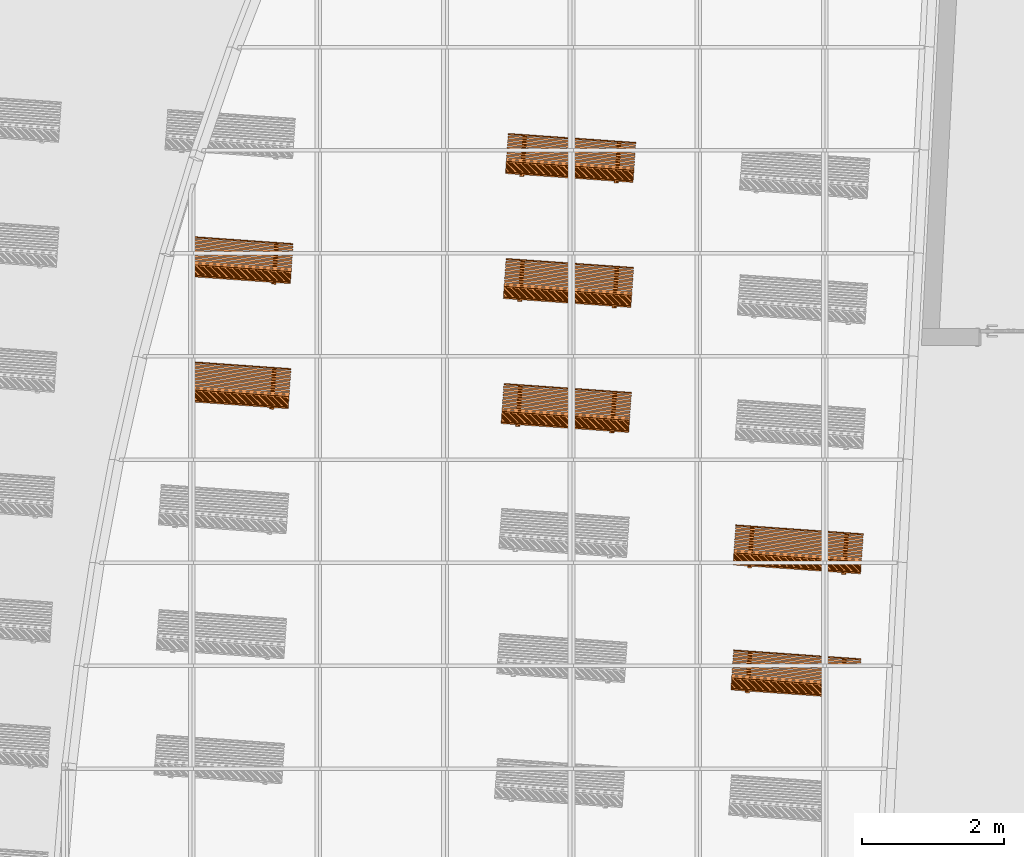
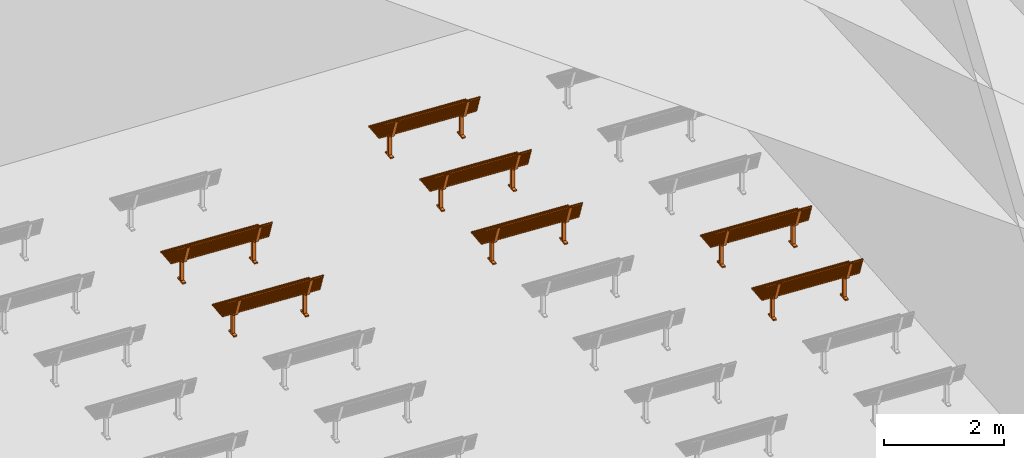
# One storey, part 79 of 82: 7 proxies.
"""IFC2X3 building model written with IfcOpenShell, lengths in millimetres."""

from ifc_helpers import new_model, entity, si_unit, converted_unit, derived_unit, direction, frame, frame_2d, origin, origin_2d_with_axis, place, context, subcontext, project, spatial, polyline, circle_curve, parameter, trimmed, segment, composite_curve, rectangle, outline, extrude, source, transform, mapped, material, material_list, element, save


model = new_model("IFC2X3")

# Units and contexts
model_context = context("Model", 3, precision=0.01, world=origin(), true_north=direction((6.12303176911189e-17, 1.0)))
body_context = subcontext(model_context, "Body", "Model", "MODEL_VIEW")
ifc_project = project(units=[si_unit("LENGTHUNIT", "METRE", prefix="MILLI"), si_unit("AREAUNIT", "SQUARE_METRE"), si_unit("VOLUMEUNIT", "CUBIC_METRE"), converted_unit("PLANEANGLEUNIT", "DEGREE", entity("IfcRatioMeasure", 0.0174532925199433), si_unit("PLANEANGLEUNIT", "RADIAN"), dimensions=[0, 0, 0, 0, 0, 0, 0]), si_unit("MASSUNIT", "GRAM", prefix="KILO"), derived_unit("MASSDENSITYUNIT", [(si_unit("MASSUNIT", "GRAM", prefix="KILO"), 1), (si_unit("LENGTHUNIT", "METRE"), -3)]), si_unit("TIMEUNIT", "SECOND"), si_unit("FREQUENCYUNIT", "HERTZ"), si_unit("THERMODYNAMICTEMPERATUREUNIT", "DEGREE_CELSIUS"), derived_unit("THERMALTRANSMITTANCEUNIT", [(si_unit("MASSUNIT", "GRAM", prefix="KILO"), 1), (si_unit("THERMODYNAMICTEMPERATUREUNIT", "KELVIN"), -1), (si_unit("TIMEUNIT", "SECOND"), -3)]), derived_unit("VOLUMETRICFLOWRATEUNIT", [(si_unit("LENGTHUNIT", "METRE"), 3), (si_unit("TIMEUNIT", "SECOND"), -1)]), si_unit("ELECTRICCURRENTUNIT", "AMPERE"), si_unit("ELECTRICVOLTAGEUNIT", "VOLT"), si_unit("POWERUNIT", "WATT"), si_unit("FORCEUNIT", "NEWTON", prefix="KILO"), si_unit("ILLUMINANCEUNIT", "LUX"), si_unit("LUMINOUSFLUXUNIT", "LUMEN"), si_unit("LUMINOUSINTENSITYUNIT", "CANDELA"), derived_unit("USERDEFINED", [(si_unit("MASSUNIT", "GRAM", prefix="KILO"), -1), (si_unit("LENGTHUNIT", "METRE"), -2), (si_unit("TIMEUNIT", "SECOND"), 3), (si_unit("LUMINOUSFLUXUNIT", "LUMEN"), 1)]), derived_unit("LINEARVELOCITYUNIT", [(si_unit("LENGTHUNIT", "METRE"), 1), (si_unit("TIMEUNIT", "SECOND"), -1)]), si_unit("PRESSUREUNIT", "PASCAL"), derived_unit("USERDEFINED", [(si_unit("LENGTHUNIT", "METRE"), -2), (si_unit("MASSUNIT", "GRAM", prefix="KILO"), 1), (si_unit("TIMEUNIT", "SECOND"), -2)])], contexts=[model_context])

# Site, building, storey
site_placement = place(None, origin())
site = spatial("IfcSite", under=ifc_project, at=site_placement, Name="表面", CompositionType="ELEMENT")
building_placement = place(site_placement, origin())
building = spatial("IfcBuilding", under=site, at=building_placement, CompositionType="ELEMENT")
storey_placement = place(building_placement, origin())
storey = spatial("IfcBuildingStorey", under=building, at=storey_placement, Name="1F", CompositionType="ELEMENT", Elevation=0.0)

# Proxies
ifc_material_1 = material(Name="木质 - 柚木")
ifc_material_2 = material(Name="金属 - 油漆面层 - 深灰色，粗面")
ifc_material_list_1 = material_list([ifc_material_1, ifc_material_2])
shared_shape_1 = source(origin(), body_context, "Body", "SweptSolid", [
    extrude(outline(composite_curve([segment(polyline([(0.797293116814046, -5.21607142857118), (12.0635827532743, -5.21607142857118)]), True, "CONTINUOUS"), segment(polyline([(12.0635827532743, -5.21607142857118), (12.0635827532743, 20.1839285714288)]), True, "CONTINUOUS"), segment(polyline([(12.0635827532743, 20.1839285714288), (0.951082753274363, 20.1839285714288)]), True, "CONTINUOUS"), segment(trimmed(circle_curve(frame_2d((0.951082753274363, 5.89642857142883), x_axis=(1.0, 0.0)), 14.2875), [parameter(89.9999999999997)], [parameter(179.999999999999)], True, "PARAMETER"), True, "CONTINUOUS"), segment(polyline([(-13.3364172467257, 5.89642857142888), (-13.3364172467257, -17.9160714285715)]), True, "CONTINUOUS"), segment(polyline([(-13.3364172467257, -17.9160714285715), (0.797293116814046, -17.9160714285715)]), True, "CONTINUOUS"), segment(polyline([(0.797293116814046, -17.9160714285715), (0.797293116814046, -5.21607142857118)]), True, "CONTINUOUS")], self_intersect=False)), frame((-900.0, -305.597293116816, 462.416071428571), z_axis=(1.0, 0.0, 0.0), x_axis=(0.0, 1.0, 0.0)), (0.0, 0.0, 1.0), 1800.0),
    extrude(outline(composite_curve([segment(polyline([(-12.6999999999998, -17.78), (0.0, -17.78)]), True, "CONTINUOUS"), segment(trimmed(circle_curve(frame_2d((0.0, -5.07999999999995), x_axis=(-0.939692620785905, -0.342020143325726)), 12.7), [parameter(69.9999999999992)], [parameter(160.0)], True, "PARAMETER"), True, "CONTINUOUS"), segment(polyline([(12.7, -5.07999999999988), (12.6999999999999, 20.3200000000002)]), True, "CONTINUOUS"), segment(polyline([(12.6999999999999, 20.3200000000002), (-12.7000000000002, 20.3200000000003)]), True, "CONTINUOUS"), segment(polyline([(-12.7000000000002, 20.3200000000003), (-12.6999999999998, -17.78)]), True, "CONTINUOUS")], self_intersect=False)), frame((-900.0, 231.374580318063, 850.885044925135), z_axis=(1.0, 0.0, 0.0), x_axis=(0.0, -0.939692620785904, 0.342020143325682)), (0.0, 0.0, 1.0), 1800.0),
    extrude(rectangle(XDim=1800.0, YDim=25.4, at=frame_2d((0.0, 1.68753899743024e-14), x_axis=(1.0, 0.0))), frame((0.0, -268.133710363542, 457.2), z_axis=(0.0, 0.0, 1.0), x_axis=(-1.0, 0.0, 0.0)), (0.0, 0.0, 1.0), 25.4),
    extrude(rectangle(XDim=1800.0, YDim=25.4, at=frame_2d((0.0, 1.68753899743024e-14), x_axis=(1.0, 0.0))), frame((0.0, -230.033710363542, 457.2), z_axis=(0.0, 0.0, 1.0), x_axis=(-1.0, 0.0, 0.0)), (0.0, 0.0, 1.0), 25.4),
    extrude(rectangle(XDim=1800.0, YDim=25.4, at=frame_2d((0.0, 1.68753899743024e-14), x_axis=(1.0, 0.0))), frame((0.0, -191.933710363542, 457.2), z_axis=(0.0, 0.0, 1.0), x_axis=(-1.0, 0.0, 0.0)), (0.0, 0.0, 1.0), 25.4),
    extrude(rectangle(XDim=1800.0, YDim=25.4, at=frame_2d((0.0, 1.68753899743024e-14), x_axis=(1.0, 0.0))), frame((0.0, -153.833710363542, 457.2), z_axis=(0.0, 0.0, 1.0), x_axis=(-1.0, 0.0, 0.0)), (0.0, 0.0, 1.0), 25.4),
    extrude(rectangle(XDim=1800.0, YDim=25.4, at=frame_2d((0.0, 1.68753899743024e-14), x_axis=(1.0, 0.0))), frame((0.0, -115.733710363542, 457.2), z_axis=(0.0, 0.0, 1.0), x_axis=(-1.0, 0.0, 0.0)), (0.0, 0.0, 1.0), 25.4),
    extrude(rectangle(XDim=1800.0, YDim=25.4, at=origin_2d_with_axis()), frame((0.0, -77.6337103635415, 457.2), z_axis=(0.0, 0.0, 1.0), x_axis=(-1.0, 0.0, 0.0)), (0.0, 0.0, 1.0), 25.4),
    extrude(rectangle(XDim=1800.0, YDim=25.4, at=origin_2d_with_axis()), frame((0.0, -39.5337103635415, 457.2), z_axis=(0.0, 0.0, 1.0), x_axis=(-1.0, 0.0, 0.0)), (0.0, 0.0, 1.0), 25.4),
    extrude(rectangle(XDim=1800.0, YDim=25.4, at=origin_2d_with_axis()), frame((0.0, -1.43371036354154, 457.2), z_axis=(0.0, 0.0, 1.0), x_axis=(-1.0, 0.0, 0.0)), (0.0, 0.0, 1.0), 25.4),
    extrude(rectangle(XDim=1800.0, YDim=25.4, at=origin_2d_with_axis()), frame((0.0, 36.6662896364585, 457.2), z_axis=(0.0, 0.0, 1.0), x_axis=(-1.0, 0.0, 0.0)), (0.0, 0.0, 1.0), 25.4),
    extrude(rectangle(XDim=25.4, YDim=25.4, at=frame_2d((3.10862446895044e-14, -1.33226762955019e-13), x_axis=(0.0, 1.0))), frame((-900.0, 137.551614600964, 593.108565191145), z_axis=(1.0, 0.0, 0.0), x_axis=(0.0, -0.939692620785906, 0.342020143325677)), (0.0, 0.0, 1.0), 1800.0),
    extrude(rectangle(XDim=25.4, YDim=25.4000000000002, at=frame_2d((-8.61533067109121e-14, 4.08562073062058e-14), x_axis=(0.0, 1.0))), frame((-900.0, 150.582582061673, 628.910854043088), z_axis=(1.0, 0.0, 0.0), x_axis=(0.0, -0.939692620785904, 0.342020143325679)), (0.0, 0.0, 1.0), 1800.0),
    extrude(rectangle(XDim=25.4000000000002, YDim=25.4, at=frame_2d((-3.19744231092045e-14, -1.15463194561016e-14), x_axis=(0.0, 1.0))), frame((-900.0, 111.489679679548, 521.503987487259), z_axis=(1.0, 0.0, 0.0), x_axis=(0.0, -0.939692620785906, 0.342020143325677)), (0.0, 0.0, 1.0), 1800.0),
    extrude(rectangle(XDim=25.4, YDim=25.3999999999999, at=frame_2d((0.0, 0.0), x_axis=(0.0, 1.0))), frame((-900.0, 124.520647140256, 557.306276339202), z_axis=(1.0, 0.0, 0.0), x_axis=(0.0, -0.939692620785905, 0.342020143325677)), (0.0, 0.0, 1.0), 1800.0),
    extrude(rectangle(XDim=25.3999999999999, YDim=25.4, at=frame_2d((-3.10862446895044e-14, -1.06581410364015e-14), x_axis=(0.0, 1.0))), frame((-900.0, 189.675484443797, 736.317720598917), z_axis=(1.0, 0.0, 0.0), x_axis=(0.0, -0.939692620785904, 0.342020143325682)), (0.0, 0.0, 1.0), 1800.0),
    extrude(rectangle(XDim=25.3999999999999, YDim=25.4000000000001, at=frame_2d((-3.10862446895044e-14, -1.33226762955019e-14), x_axis=(0.0, 1.0))), frame((-900.0, 202.706451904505, 772.12000945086), z_axis=(1.0, 0.0, 0.0), x_axis=(0.0, -0.939692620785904, 0.34202014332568)), (0.0, 0.0, 1.0), 1800.0),
    extrude(rectangle(XDim=25.4, YDim=25.3999999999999, at=frame_2d((0.0, 0.0), x_axis=(0.0, 1.0))), frame((-900.0, 163.613549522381, 664.713142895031), z_axis=(1.0, 0.0, 0.0), x_axis=(0.0, -0.939692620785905, 0.342020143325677)), (0.0, 0.0, 1.0), 1800.0),
    extrude(rectangle(XDim=25.4, YDim=25.4, at=frame_2d((-7.99360577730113e-15, -7.63833440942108e-14), x_axis=(0.0, 1.0))), frame((-900.0, 176.644516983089, 700.515431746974), z_axis=(1.0, 0.0, 0.0), x_axis=(0.0, -0.939692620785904, 0.342020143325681)), (0.0, 0.0, 1.0), 1800.0),
    extrude(rectangle(XDim=25.4, YDim=25.3999999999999, at=frame_2d((3.19744231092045e-14, 1.06581410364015e-14), x_axis=(0.0, 1.0))), frame((-900.0, 215.737419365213, 807.922298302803), z_axis=(1.0, 0.0, 0.0), x_axis=(0.0, -0.939692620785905, 0.342020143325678)), (0.0, 0.0, 1.0), 1800.0),
    extrude(rectangle(XDim=25.4000000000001, YDim=25.3999999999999, at=frame_2d((-1.33226762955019e-14, -9.76996261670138e-15), x_axis=(0.0, 1.0))), frame((-900.0, 96.4732295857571, 493.845543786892), z_axis=(1.0, 0.0, 0.0), x_axis=(0.0, -0.81915204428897, 0.573576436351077)), (0.0, 0.0, 1.0), 1800.0),
    extrude(rectangle(XDim=25.4, YDim=25.4000000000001, at=frame_2d((4.44089209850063e-15, 1.68753899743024e-14), x_axis=(1.0, 0.0))), frame((-900.0, 68.061957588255, 472.784050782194), z_axis=(1.0, 0.0, 0.0), x_axis=(0.0, -0.258819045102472, 0.965925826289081)), (0.0, 0.0, 1.0), 1800.0),
    extrude(outline(composite_curve([segment(polyline([(344.97581690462, -133.451056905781), (370.37581690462, -133.451056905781)]), True, "CONTINUOUS"), segment(polyline([(370.37581690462, -133.451056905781), (370.37581690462, 69.7489430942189)]), True, "CONTINUOUS"), segment(polyline([(370.37581690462, 69.7489430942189), (344.97581690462, 69.7489430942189)]), True, "CONTINUOUS"), segment(polyline([(344.97581690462, 69.7489430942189), (344.97581690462, -6.45105690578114)]), True, "CONTINUOUS"), segment(polyline([(344.97581690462, -6.45105690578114), (-61.4241830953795, -6.45105690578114)]), True, "CONTINUOUS"), segment(polyline([(-61.4241830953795, -6.45105690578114), (-61.4241830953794, 25.2857644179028)]), True, "CONTINUOUS"), segment(trimmed(circle_curve(frame_2d((-150.324183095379, 25.2857644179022), x_axis=(0.0, 1.0)), 88.8999999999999), [parameter(270.0)], [parameter(340.0)], True, "PARAMETER"), True, "CONTINUOUS"), segment(polyline([(-119.918592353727, 108.824438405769), (-483.896145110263, 241.301433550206)]), True, "CONTINUOUS"), segment(polyline([(-483.896145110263, 241.301433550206), (-488.239800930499, 229.367337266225)]), True, "CONTINUOUS"), segment(trimmed(circle_curve(frame_2d((-476.305704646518, 225.023681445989), x_axis=(0.0, 1.0)), 12.7), [parameter(69.9999999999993)], [parameter(160.0)], True, "PARAMETER"), True, "CONTINUOUS"), segment(polyline([(-480.649360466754, 213.089585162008), (-128.6059039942, 84.9562458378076)]), True, "CONTINUOUS"), segment(trimmed(circle_curve(frame_2d((-150.32418309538, 25.2857644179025), x_axis=(0.0, 1.0)), 63.5), [parameter(270.0)], [parameter(340.0)], True, "PARAMETER"), False, "CONTINUOUS"), segment(polyline([(-86.8241830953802, 25.2857644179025), (-86.8241830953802, -336.651056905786)]), True, "CONTINUOUS"), segment(polyline([(-86.8241830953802, -336.651056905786), (-61.4241830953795, -336.651056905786)]), True, "CONTINUOUS"), segment(polyline([(-61.4241830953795, -336.651056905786), (-61.4241830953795, -57.2510569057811)]), True, "CONTINUOUS"), segment(polyline([(-61.4241830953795, -57.2510569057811), (344.97581690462, -57.2510569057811)]), True, "CONTINUOUS"), segment(polyline([(344.97581690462, -57.2510569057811), (344.97581690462, -133.451056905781)]), True, "CONTINUOUS")], self_intersect=False)), frame((633.973659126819, 31.8510569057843, 370.37581690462), z_axis=(1.0, 0.0, 0.0), x_axis=(0.0, 0.0, -1.0)), (0.0, 0.0, 1.0), 62.8263408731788),
    extrude(outline(composite_curve([segment(polyline([(344.97581690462, -133.451056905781), (370.37581690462, -133.451056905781)]), True, "CONTINUOUS"), segment(polyline([(370.37581690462, -133.451056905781), (370.37581690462, 69.7489430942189)]), True, "CONTINUOUS"), segment(polyline([(370.37581690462, 69.7489430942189), (344.97581690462, 69.7489430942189)]), True, "CONTINUOUS"), segment(polyline([(344.97581690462, 69.7489430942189), (344.97581690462, -6.45105690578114)]), True, "CONTINUOUS"), segment(polyline([(344.97581690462, -6.45105690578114), (-61.4241830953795, -6.45105690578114)]), True, "CONTINUOUS"), segment(polyline([(-61.4241830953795, -6.45105690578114), (-61.4241830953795, 25.2857644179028)]), True, "CONTINUOUS"), segment(trimmed(circle_curve(frame_2d((-150.32418309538, 25.2857644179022), x_axis=(0.0, 1.0)), 88.9), [parameter(270.0)], [parameter(340.0)], True, "PARAMETER"), True, "CONTINUOUS"), segment(polyline([(-119.918592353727, 108.824438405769), (-483.896145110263, 241.301433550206)]), True, "CONTINUOUS"), segment(polyline([(-483.896145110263, 241.301433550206), (-488.239800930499, 229.367337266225)]), True, "CONTINUOUS"), segment(trimmed(circle_curve(frame_2d((-476.305704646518, 225.023681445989), x_axis=(0.0, 1.0)), 12.7), [parameter(69.9999999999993)], [parameter(160.0)], True, "PARAMETER"), True, "CONTINUOUS"), segment(polyline([(-480.649360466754, 213.089585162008), (-128.6059039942, 84.9562458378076)]), True, "CONTINUOUS"), segment(trimmed(circle_curve(frame_2d((-150.32418309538, 25.2857644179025), x_axis=(0.0, 1.0)), 63.5), [parameter(270.0)], [parameter(340.0)], True, "PARAMETER"), False, "CONTINUOUS"), segment(polyline([(-86.8241830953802, 25.2857644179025), (-86.8241830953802, -336.651056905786)]), True, "CONTINUOUS"), segment(polyline([(-86.8241830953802, -336.651056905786), (-61.4241830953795, -336.651056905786)]), True, "CONTINUOUS"), segment(polyline([(-61.4241830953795, -336.651056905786), (-61.4241830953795, -57.2510569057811)]), True, "CONTINUOUS"), segment(polyline([(-61.4241830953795, -57.2510569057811), (344.97581690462, -57.2510569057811)]), True, "CONTINUOUS"), segment(polyline([(344.97581690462, -57.2510569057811), (344.97581690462, -133.451056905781)]), True, "CONTINUOUS")], self_intersect=False)), frame((-696.799999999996, 31.8510569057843, 370.37581690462), z_axis=(1.0, 0.0, 0.0), x_axis=(0.0, 0.0, -1.0)), (0.0, 0.0, 1.0), 63.8916859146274),
])
proxy_1_placement = place(storey_placement, frame((-23496.3612999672, -4831.30737038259, 0.0), z_axis=(0.0, 0.0, 1.0), x_axis=(-0.997564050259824, 0.0697564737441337, 0.0)))
element("IfcBuildingElementProxy", 1, at=proxy_1_placement, inside=storey, material=ifc_material_list_1, Name="长椅:1800 mm", ObjectType="1800 mm", context=body_context, shape_type="MappedRepresentation", body=[
    mapped(shared_shape_1, transform((0.0, 0.0, 0.0), scale=1.0)),
])
ifc_material_list_2 = material_list([ifc_material_1, ifc_material_2])
proxy_2_placement = place(storey_placement, frame((-23527.0502649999, -6589.47699959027, 0.0), z_axis=(0.0, 0.0, 1.0), x_axis=(-0.997564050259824, 0.0697564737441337, 0.0)))
element("IfcBuildingElementProxy", 2, at=proxy_2_placement, inside=storey, material=ifc_material_list_2, Name="长椅:1800 mm", ObjectType="1800 mm", context=body_context, shape_type="MappedRepresentation", body=[
    mapped(shared_shape_1, transform((0.0, 0.0, 0.0), scale=1.0)),
])
ifc_material_list_3 = material_list([ifc_material_1, ifc_material_2])
proxy_3_placement = place(storey_placement, frame((-23557.7392300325, -8347.64662879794, 0.0), z_axis=(0.0, 0.0, 1.0), x_axis=(-0.997564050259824, 0.0697564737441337, 0.0)))
element("IfcBuildingElementProxy", 3, at=proxy_3_placement, inside=storey, material=ifc_material_list_3, Name="长椅:1800 mm", ObjectType="1800 mm", context=body_context, shape_type="MappedRepresentation", body=[
    mapped(shared_shape_1, transform((0.0, 0.0, 0.0), scale=1.0)),
])
ifc_material_list_4 = material_list([ifc_material_1, ifc_material_2])
proxy_4_placement = place(storey_placement, frame((-20296.4668292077, -10336.0126213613, 0.0), z_axis=(0.0, 0.0, 1.0), x_axis=(-0.997564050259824, 0.0697564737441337, 0.0)))
element("IfcBuildingElementProxy", 4, at=proxy_4_placement, inside=storey, material=ifc_material_list_4, Name="长椅:1800 mm", ObjectType="1800 mm", context=body_context, shape_type="MappedRepresentation", body=[
    mapped(shared_shape_1, transform((0.0, 0.0, 0.0), scale=1.0)),
])
ifc_material_list_5 = material_list([ifc_material_1, ifc_material_2])
proxy_5_placement = place(storey_placement, frame((-20327.1557942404, -12094.1822505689, 0.0), z_axis=(0.0, 0.0, 1.0), x_axis=(-0.997564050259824, 0.0697564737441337, 0.0)))
element("IfcBuildingElementProxy", 5, at=proxy_5_placement, inside=storey, material=ifc_material_list_5, Name="长椅:1800 mm", ObjectType="1800 mm", context=body_context, shape_type="MappedRepresentation", body=[
    mapped(shared_shape_1, transform((0.0, 0.0, 0.0), scale=1.0)),
])
ifc_material_list_6 = material_list([ifc_material_1, ifc_material_2])
shared_shape_2 = source(origin(), body_context, "Body", "SweptSolid", [
    extrude(outline(composite_curve([segment(polyline([(5.21607142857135, -0.797293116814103), (17.9160714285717, -0.797293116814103)]), True, "CONTINUOUS"), segment(polyline([(17.9160714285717, -0.797293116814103), (17.9160714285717, 13.3364172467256)]), True, "CONTINUOUS"), segment(polyline([(17.9160714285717, 13.3364172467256), (-5.89642857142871, 13.3364172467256)]), True, "CONTINUOUS"), segment(trimmed(circle_curve(frame_2d((-5.89642857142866, -0.95108275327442), x_axis=(0.0, -1.0)), 14.2875), [parameter(180.000000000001)], [parameter(270.0)], True, "PARAMETER"), True, "CONTINUOUS"), segment(polyline([(-20.1839285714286, -0.95108275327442), (-20.1839285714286, -12.0635827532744)]), True, "CONTINUOUS"), segment(polyline([(-20.1839285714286, -12.0635827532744), (5.21607142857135, -12.0635827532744)]), True, "CONTINUOUS"), segment(polyline([(5.21607142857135, -12.0635827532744), (5.21607142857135, -0.797293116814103)]), True, "CONTINUOUS")], self_intersect=False)), frame((-900.0, 305.597293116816, 462.416071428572), z_axis=(1.0, 0.0, 0.0), x_axis=(0.0, 0.0, -1.0)), (0.0, 0.0, 1.0), 1800.0),
    extrude(outline(composite_curve([segment(polyline([(-17.7799999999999, -12.6999999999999), (20.3200000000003, -12.6999999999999)]), True, "CONTINUOUS"), segment(polyline([(20.3200000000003, -12.6999999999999), (20.3199999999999, 12.7000000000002)]), True, "CONTINUOUS"), segment(polyline([(20.3199999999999, 12.7000000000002), (-5.08000000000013, 12.7)]), True, "CONTINUOUS"), segment(trimmed(circle_curve(frame_2d((-5.08000000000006, 0.0), x_axis=(-0.342020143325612, -0.939692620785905)), 12.7), [parameter(200.0)], [parameter(290.000000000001)], True, "PARAMETER"), True, "CONTINUOUS"), segment(polyline([(-17.7800000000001, 0.0), (-17.7799999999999, -12.6999999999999)]), True, "CONTINUOUS")], self_intersect=False)), frame((-900.0, -231.374580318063, 850.885044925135), z_axis=(1.0, 0.0, 0.0), x_axis=(0.0, 0.342020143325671, -0.939692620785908)), (0.0, 0.0, 1.0), 1800.0),
    extrude(rectangle(XDim=25.4, YDim=1800.0, at=frame_2d((-1.68753899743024e-14, 0.0), x_axis=(1.0, 0.0))), frame((0.0, 268.133710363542, 457.2), z_axis=(0.0, 0.0, 1.0), x_axis=(0.0, 1.0, 0.0)), (0.0, 0.0, 1.0), 25.4),
    extrude(rectangle(XDim=25.4, YDim=1800.0, at=frame_2d((-1.68753899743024e-14, 0.0), x_axis=(1.0, 0.0))), frame((0.0, 230.033710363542, 457.2), z_axis=(0.0, 0.0, 1.0), x_axis=(0.0, 1.0, 0.0)), (0.0, 0.0, 1.0), 25.4),
    extrude(rectangle(XDim=25.4, YDim=1800.0, at=frame_2d((-1.68753899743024e-14, 0.0), x_axis=(1.0, 0.0))), frame((0.0, 191.933710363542, 457.2), z_axis=(0.0, 0.0, 1.0), x_axis=(0.0, 1.0, 0.0)), (0.0, 0.0, 1.0), 25.4),
    extrude(rectangle(XDim=25.4, YDim=1800.0, at=frame_2d((-1.68753899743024e-14, 0.0), x_axis=(1.0, 0.0))), frame((0.0, 153.833710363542, 457.2), z_axis=(0.0, 0.0, 1.0), x_axis=(0.0, 1.0, 0.0)), (0.0, 0.0, 1.0), 25.4),
    extrude(rectangle(XDim=25.4, YDim=1800.0, at=origin_2d_with_axis()), frame((0.0, 115.733710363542, 457.2), z_axis=(0.0, 0.0, 1.0), x_axis=(0.0, 1.0, 0.0)), (0.0, 0.0, 1.0), 25.4),
    extrude(rectangle(XDim=25.4, YDim=1800.0, at=origin_2d_with_axis()), frame((0.0, 77.6337103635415, 457.2), z_axis=(0.0, 0.0, 1.0), x_axis=(0.0, 1.0, 0.0)), (0.0, 0.0, 1.0), 25.4),
    extrude(rectangle(XDim=25.4, YDim=1800.0, at=origin_2d_with_axis()), frame((0.0, 39.5337103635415, 457.2), z_axis=(0.0, 0.0, 1.0), x_axis=(0.0, 1.0, 0.0)), (0.0, 0.0, 1.0), 25.4),
    extrude(rectangle(XDim=25.4, YDim=1800.0, at=origin_2d_with_axis()), frame((0.0, 1.43371036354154, 457.2), z_axis=(0.0, 0.0, 1.0), x_axis=(0.0, 1.0, 0.0)), (0.0, 0.0, 1.0), 25.4),
    extrude(rectangle(XDim=25.4, YDim=1800.0, at=origin_2d_with_axis()), frame((0.0, -36.6662896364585, 457.2), z_axis=(0.0, 0.0, 1.0), x_axis=(0.0, 1.0, 0.0)), (0.0, 0.0, 1.0), 25.4),
    extrude(rectangle(XDim=25.4, YDim=25.4, at=frame_2d((-1.33226762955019e-13, 3.01980662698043e-14), x_axis=(1.0, 0.0))), frame((-900.0, -137.551614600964, 593.108565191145), z_axis=(1.0, 0.0, 0.0), x_axis=(0.0, 0.342020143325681, -0.939692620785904)), (0.0, 0.0, 1.0), 1800.0),
    extrude(rectangle(XDim=25.4, YDim=25.4000000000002, at=frame_2d((3.99680288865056e-14, -8.61533067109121e-14), x_axis=(1.0, 0.0))), frame((-900.0, -150.582582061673, 628.910854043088), z_axis=(1.0, 0.0, 0.0), x_axis=(0.0, 0.342020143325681, -0.939692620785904)), (0.0, 0.0, 1.0), 1800.0),
    extrude(rectangle(XDim=25.4000000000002, YDim=25.4, at=frame_2d((-1.06581410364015e-14, -3.19744231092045e-14), x_axis=(1.0, 0.0))), frame((-900.0, -111.489679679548, 521.503987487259), z_axis=(1.0, 0.0, 0.0), x_axis=(0.0, 0.342020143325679, -0.939692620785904)), (0.0, 0.0, 1.0), 1800.0),
    extrude(rectangle(XDim=25.4, YDim=25.3999999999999, at=origin_2d_with_axis()), frame((-900.0, -124.520647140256, 557.306276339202), z_axis=(1.0, 0.0, 0.0), x_axis=(0.0, 0.342020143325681, -0.939692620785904)), (0.0, 0.0, 1.0), 1800.0),
    extrude(rectangle(XDim=25.3999999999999, YDim=25.4, at=frame_2d((-1.06581410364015e-14, -3.10862446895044e-14), x_axis=(1.0, 0.0))), frame((-900.0, -189.675484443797, 736.317720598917), z_axis=(1.0, 0.0, 0.0), x_axis=(0.0, 0.342020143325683, -0.939692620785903)), (0.0, 0.0, 1.0), 1800.0),
    extrude(rectangle(XDim=25.3999999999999, YDim=25.4000000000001, at=frame_2d((-1.33226762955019e-14, -3.19744231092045e-14), x_axis=(1.0, 0.0))), frame((-900.0, -202.706451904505, 772.12000945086), z_axis=(1.0, 0.0, 0.0), x_axis=(0.0, 0.342020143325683, -0.939692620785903)), (0.0, 0.0, 1.0), 1800.0),
    extrude(rectangle(XDim=25.4, YDim=25.3999999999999, at=origin_2d_with_axis()), frame((-900.0, -163.613549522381, 664.713142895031), z_axis=(1.0, 0.0, 0.0), x_axis=(0.0, 0.342020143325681, -0.939692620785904)), (0.0, 0.0, 1.0), 1800.0),
    extrude(rectangle(XDim=25.4, YDim=25.4, at=frame_2d((5.15143483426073e-14, -5.32907051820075e-14), x_axis=(1.0, 0.0))), frame((-900.0, -176.644516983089, 700.515431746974), z_axis=(1.0, 0.0, 0.0), x_axis=(0.0, 0.342020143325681, -0.939692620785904)), (0.0, 0.0, 1.0), 1800.0),
    extrude(rectangle(XDim=25.4, YDim=25.3999999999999, at=frame_2d((1.24344978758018e-14, 3.19744231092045e-14), x_axis=(1.0, 0.0))), frame((-900.0, -215.737419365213, 807.922298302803), z_axis=(1.0, 0.0, 0.0), x_axis=(0.0, 0.342020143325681, -0.939692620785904)), (0.0, 0.0, 1.0), 1800.0),
    extrude(rectangle(XDim=25.4000000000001, YDim=25.3999999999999, at=frame_2d((-9.76996261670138e-15, -1.4210854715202e-14), x_axis=(1.0, 0.0))), frame((-900.0, -96.4732295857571, 493.845543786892), z_axis=(1.0, 0.0, 0.0), x_axis=(0.0, 0.573576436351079, -0.819152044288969)), (0.0, 0.0, 1.0), 1800.0),
    extrude(rectangle(XDim=25.4, YDim=25.4000000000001, at=frame_2d((5.24025267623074e-14, -1.25233157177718e-13), x_axis=(0.0, 1.0))), frame((-900.0, -68.061957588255, 472.784050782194), z_axis=(1.0, 0.0, 0.0), x_axis=(0.0, 0.965925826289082, -0.258819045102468)), (0.0, 0.0, 1.0), 1800.0),
    extrude(outline(composite_curve([segment(polyline([(-133.451056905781, -344.97581690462), (-133.451056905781, -370.37581690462)]), True, "CONTINUOUS"), segment(polyline([(-133.451056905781, -370.37581690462), (69.7489430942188, -370.37581690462)]), True, "CONTINUOUS"), segment(polyline([(69.7489430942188, -370.37581690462), (69.7489430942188, -344.97581690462)]), True, "CONTINUOUS"), segment(polyline([(69.7489430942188, -344.97581690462), (-6.45105690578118, -344.97581690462)]), True, "CONTINUOUS"), segment(polyline([(-6.45105690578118, -344.97581690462), (-6.45105690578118, 61.4241830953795)]), True, "CONTINUOUS"), segment(polyline([(-6.45105690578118, 61.4241830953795), (25.2857644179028, 61.4241830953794)]), True, "CONTINUOUS"), segment(trimmed(circle_curve(frame_2d((25.2857644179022, 150.324183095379), x_axis=(1.0, 0.0)), 88.8999999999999), [parameter(270.0)], [parameter(340.0)], True, "PARAMETER"), True, "CONTINUOUS"), segment(polyline([(108.824438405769, 119.918592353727), (241.301433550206, 483.896145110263)]), True, "CONTINUOUS"), segment(polyline([(241.301433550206, 483.896145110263), (229.367337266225, 488.239800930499)]), True, "CONTINUOUS"), segment(trimmed(circle_curve(frame_2d((225.023681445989, 476.305704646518), x_axis=(1.0, 0.0)), 12.7), [parameter(69.9999999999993)], [parameter(160.0)], True, "PARAMETER"), True, "CONTINUOUS"), segment(polyline([(213.089585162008, 480.649360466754), (84.9562458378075, 128.6059039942)]), True, "CONTINUOUS"), segment(trimmed(circle_curve(frame_2d((25.2857644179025, 150.32418309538), x_axis=(1.0, 0.0)), 63.5), [parameter(270.0)], [parameter(340.0)], True, "PARAMETER"), False, "CONTINUOUS"), segment(polyline([(25.2857644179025, 86.8241830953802), (-336.651056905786, 86.8241830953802)]), True, "CONTINUOUS"), segment(polyline([(-336.651056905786, 86.8241830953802), (-336.651056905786, 61.4241830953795)]), True, "CONTINUOUS"), segment(polyline([(-336.651056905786, 61.4241830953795), (-57.2510569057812, 61.4241830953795)]), True, "CONTINUOUS"), segment(polyline([(-57.2510569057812, 61.4241830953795), (-57.2510569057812, -344.97581690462)]), True, "CONTINUOUS"), segment(polyline([(-57.2510569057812, -344.97581690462), (-133.451056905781, -344.97581690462)]), True, "CONTINUOUS")], self_intersect=False)), frame((633.973659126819, -31.8510569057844, 370.37581690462), z_axis=(-1.0, 0.0, 0.0), x_axis=(0.0, -1.0, 0.0)), (0.0, 0.0, -1.0), 62.8263408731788),
    extrude(outline(composite_curve([segment(polyline([(-133.451056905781, -344.97581690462), (-133.451056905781, -370.37581690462)]), True, "CONTINUOUS"), segment(polyline([(-133.451056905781, -370.37581690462), (69.7489430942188, -370.37581690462)]), True, "CONTINUOUS"), segment(polyline([(69.7489430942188, -370.37581690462), (69.7489430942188, -344.97581690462)]), True, "CONTINUOUS"), segment(polyline([(69.7489430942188, -344.97581690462), (-6.45105690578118, -344.97581690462)]), True, "CONTINUOUS"), segment(polyline([(-6.45105690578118, -344.97581690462), (-6.45105690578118, 61.4241830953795)]), True, "CONTINUOUS"), segment(polyline([(-6.45105690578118, 61.4241830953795), (25.2857644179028, 61.4241830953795)]), True, "CONTINUOUS"), segment(trimmed(circle_curve(frame_2d((25.2857644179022, 150.32418309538), x_axis=(1.0, 0.0)), 88.9), [parameter(270.0)], [parameter(340.0)], True, "PARAMETER"), True, "CONTINUOUS"), segment(polyline([(108.824438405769, 119.918592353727), (241.301433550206, 483.896145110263)]), True, "CONTINUOUS"), segment(polyline([(241.301433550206, 483.896145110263), (229.367337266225, 488.239800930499)]), True, "CONTINUOUS"), segment(trimmed(circle_curve(frame_2d((225.023681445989, 476.305704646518), x_axis=(1.0, 0.0)), 12.7), [parameter(69.9999999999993)], [parameter(160.0)], True, "PARAMETER"), True, "CONTINUOUS"), segment(polyline([(213.089585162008, 480.649360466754), (84.9562458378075, 128.6059039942)]), True, "CONTINUOUS"), segment(trimmed(circle_curve(frame_2d((25.2857644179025, 150.32418309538), x_axis=(1.0, 0.0)), 63.5), [parameter(270.0)], [parameter(340.0)], True, "PARAMETER"), False, "CONTINUOUS"), segment(polyline([(25.2857644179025, 86.8241830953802), (-336.651056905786, 86.8241830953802)]), True, "CONTINUOUS"), segment(polyline([(-336.651056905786, 86.8241830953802), (-336.651056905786, 61.4241830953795)]), True, "CONTINUOUS"), segment(polyline([(-336.651056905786, 61.4241830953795), (-57.2510569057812, 61.4241830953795)]), True, "CONTINUOUS"), segment(polyline([(-57.2510569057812, 61.4241830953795), (-57.2510569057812, -344.97581690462)]), True, "CONTINUOUS"), segment(polyline([(-57.2510569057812, -344.97581690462), (-133.451056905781, -344.97581690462)]), True, "CONTINUOUS")], self_intersect=False)), frame((-696.799999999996, -31.8510569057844, 370.37581690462), z_axis=(-1.0, 0.0, 0.0), x_axis=(0.0, -1.0, 0.0)), (0.0, 0.0, -1.0), 63.8916859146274),
])
proxy_6_placement = place(storey_placement, frame((-28315.357706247, -6254.64592561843, 0.0), z_axis=(0.0, 0.0, 1.0), x_axis=(0.997564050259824, -0.0697564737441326, 0.0)))
element("IfcBuildingElementProxy", 6, at=proxy_6_placement, inside=storey, material=ifc_material_list_6, Name="长椅:1800 mm", ObjectType="1800 mm", context=body_context, shape_type="MappedRepresentation", body=[
    mapped(shared_shape_2, transform((0.0, 0.0, 0.0), scale=1.0)),
])
ifc_material_list_7 = material_list([ifc_material_1, ifc_material_2])
proxy_7_placement = place(storey_placement, frame((-28346.0466712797, -8012.8155548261, 0.0), z_axis=(0.0, 0.0, 1.0), x_axis=(0.997564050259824, -0.0697564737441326, 0.0)))
element("IfcBuildingElementProxy", 7, at=proxy_7_placement, inside=storey, material=ifc_material_list_7, Name="长椅:1800 mm", ObjectType="1800 mm", context=body_context, shape_type="MappedRepresentation", body=[
    mapped(shared_shape_2, transform((0.0, 0.0, 0.0), scale=1.0)),
])

save(model, "model.ifc")
